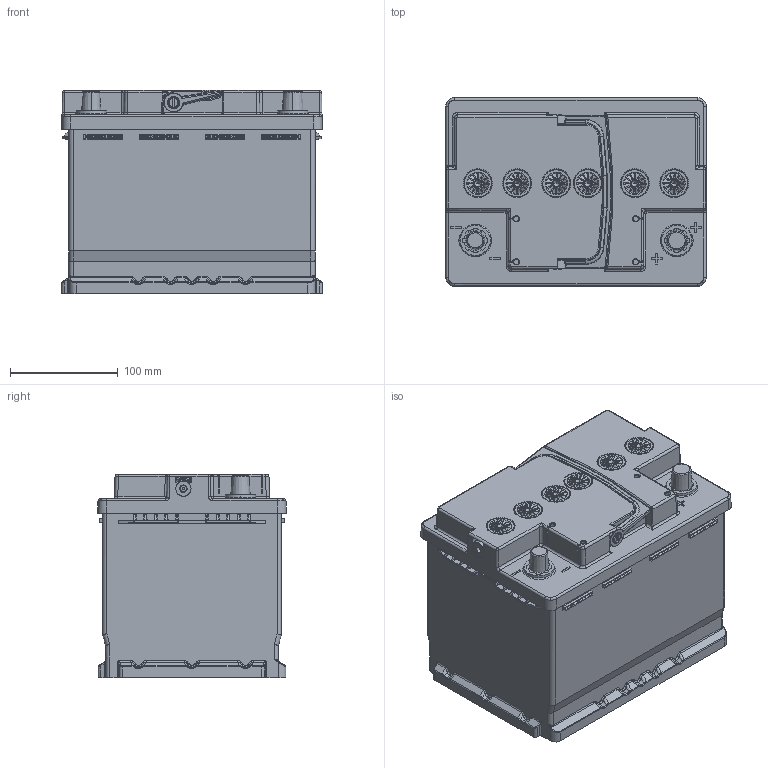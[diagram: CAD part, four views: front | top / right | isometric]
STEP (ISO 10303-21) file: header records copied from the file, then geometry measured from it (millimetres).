
FILE_DESCRIPTION(('CATIA V5 STEP Exchange'),'2;1');
FILE_NAME('G:\PE\KQ data\Groups\Engineering\Old documents\Yayong He\AGM drawing\AGM H5 3D.stp','2017-06-20T07:01:57+00:00',('none'),('none'),'CATIA Version 5 Release 20 GA (IN-10)','CATIA V5 STEP AP203','none');
FILE_SCHEMA(('CONFIG_CONTROL_DESIGN'));
Products named in the file (1): AGM H5
Bounding box: 241.7 x 174.8 x 188.51 mm (x, y, z)
Volume: 6907738.7 mm3; surface area: 298452.7 mm2
Topology: 1 solids, 1 shells, 5627 faces, 16227 edges, 10727 vertices
Faces by surface type: cylinder 1967, plane 1284, bspline 984, sphere 701, cone 432, torus 256, revolution 3
Entity records: 211505 total; most frequent: CARTESIAN_POINT 88263, ORIENTED_EDGE 32188, DIRECTION 16712, EDGE_CURVE 16094, VERTEX_POINT 10717, AXIS2_PLACEMENT_3D 6919, EDGE_LOOP 5883, B_SPLINE_CURVE_WITH_KNOTS 5761
